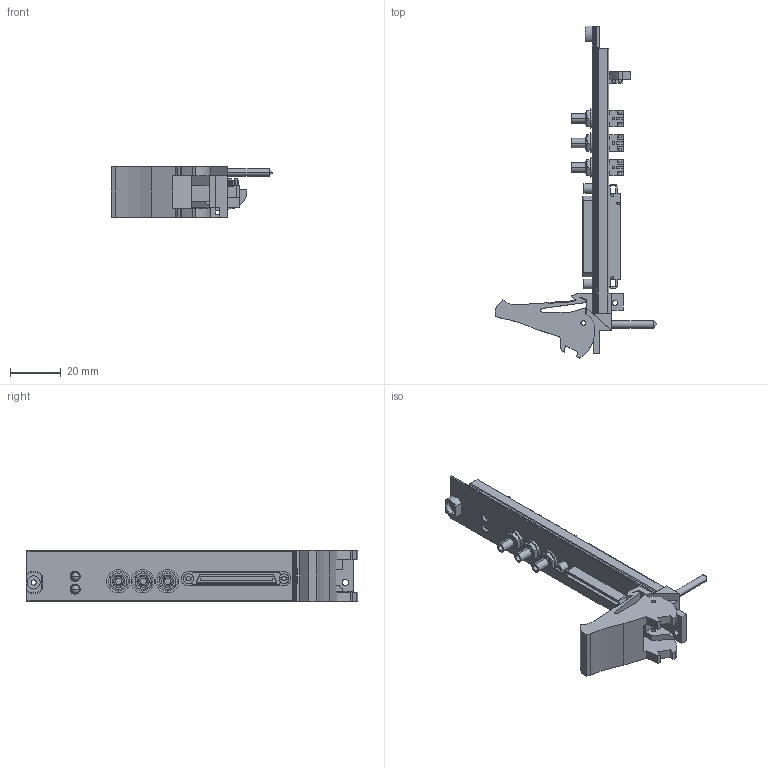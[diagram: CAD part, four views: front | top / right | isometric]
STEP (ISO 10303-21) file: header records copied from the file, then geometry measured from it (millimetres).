
FILE_DESCRIPTION((''),'2;1');
FILE_NAME('CU_PXI-6541','2007-08-06T',('lmcdanie'),(''),'PRO/ENGINEER BY PARAMETRIC TECHNOLOGY CORPORATION, 2006080','PRO/ENGINEER BY PARAMETRIC TECHNOLOGY CORPORATION, 2006080','');
FILE_SCHEMA(('CONFIG_CONTROL_DESIGN'));
Length unit declared in the file: inch
Products named in the file (1): CU_PXI-6541
Bounding box: 63.53 x 130.51 x 20.02 mm (x, y, z)
Volume: 18342.4 mm3; surface area: 18036.4 mm2
Topology: 5 solids, 5 shells, 669 faces, 1762 edges, 1148 vertices
Faces by surface type: plane 447, cylinder 192, cone 22, torus 4, sphere 4
Entity records: 21388 total; most frequent: CARTESIAN_POINT 4407, ORIENTED_EDGE 3516, DIRECTION 3508, EDGE_CURVE 1758, VECTOR 1258, LINE 1258, VERTEX_POINT 1148, AXIS2_PLACEMENT_3D 1125
